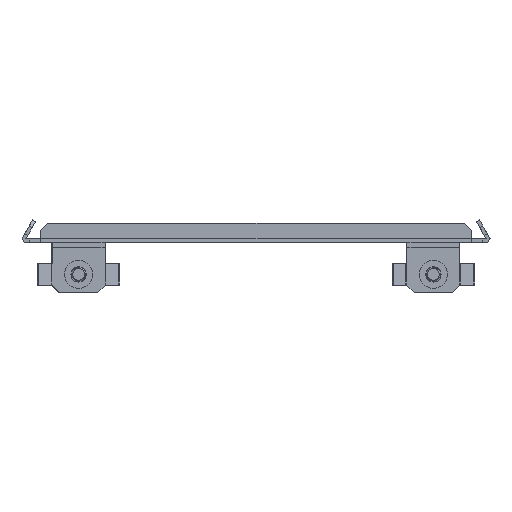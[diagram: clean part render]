
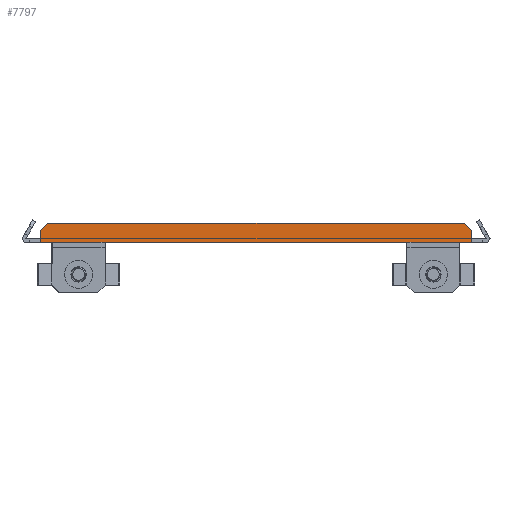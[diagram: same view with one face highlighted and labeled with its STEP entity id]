
A CAD part, left-side view. The second image highlights one B-rep face of the part: STEP entity #7797.
In plain terms, the highlighted planar face has unit normal (-1, 0, 0).
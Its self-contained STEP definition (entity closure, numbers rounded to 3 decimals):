
#120 = VECTOR ( 'NONE', #15654, 1000. ) ;
#135 = EDGE_CURVE ( 'NONE', #930, #25573, #15724, .T. ) ;
#256 = DIRECTION ( 'NONE',  ( 0., 0.707, -0.707 ) ) ;
#492 = VERTEX_POINT ( 'NONE', #22426 ) ;
#525 = EDGE_CURVE ( 'NONE', #9759, #16012, #24811, .T. ) ;
#722 = ORIENTED_EDGE ( 'NONE', *, *, #21935, .T. ) ;
#930 = VERTEX_POINT ( 'NONE', #19856 ) ;
#1166 = ORIENTED_EDGE ( 'NONE', *, *, #135, .T. ) ;
#1282 = VECTOR ( 'NONE', #6201, 1000. ) ;
#1553 = VECTOR ( 'NONE', #8497, 1000. ) ;
#1816 = DIRECTION ( 'NONE',  ( 0., -1., 0. ) ) ;
#2140 = VECTOR ( 'NONE', #4160, 1000. ) ;
#2963 = EDGE_CURVE ( 'NONE', #25606, #4572, #7798, .T. ) ;
#4160 = DIRECTION ( 'NONE',  ( 0., -1., 0. ) ) ;
#4572 = VERTEX_POINT ( 'NONE', #9456 ) ;
#5008 = DIRECTION ( 'NONE',  ( 0., 0., -1. ) ) ;
#5271 = VECTOR ( 'NONE', #5008, 1000. ) ;
#5522 = ORIENTED_EDGE ( 'NONE', *, *, #16029, .T. ) ;
#5578 = CARTESIAN_POINT ( 'NONE',  ( 1., -86.25, -1.5 ) ) ;
#5641 = LINE ( 'NONE', #10312, #1282 ) ;
#6201 = DIRECTION ( 'NONE',  ( 0., 0.707, 0.707 ) ) ;
#6380 = VECTOR ( 'NONE', #24453, 1000. ) ;
#7068 = CARTESIAN_POINT ( 'NONE',  ( 1., -22.5, -1.5 ) ) ;
#7151 = CARTESIAN_POINT ( 'NONE',  ( 1., -177.147, 3.5 ) ) ;
#7276 = DIRECTION ( 'NONE',  ( 0., -1., 0. ) ) ;
#7705 = CARTESIAN_POINT ( 'NONE',  ( 1., -172.345, -1.5 ) ) ;
#7797 = ADVANCED_FACE ( 'NONE', ( #18996 ), #16738, .F. ) ;
#7798 = LINE ( 'NONE', #10618, #1553 ) ;
#7950 = EDGE_CURVE ( 'NONE', #25573, #9700, #10960, .T. ) ;
#8143 = CARTESIAN_POINT ( 'NONE',  ( 1., -86.25, -1.5 ) ) ;
#8497 = DIRECTION ( 'NONE',  ( 0., 0., -1. ) ) ;
#8896 = ORIENTED_EDGE ( 'NONE', *, *, #23243, .T. ) ;
#9456 = CARTESIAN_POINT ( 'NONE',  ( 1., -177.147, -1.5 ) ) ;
#9700 = VERTEX_POINT ( 'NONE', #10513 ) ;
#9759 = VERTEX_POINT ( 'NONE', #23740 ) ;
#10312 = CARTESIAN_POINT ( 'NONE',  ( 1., -134.199, 46.449 ) ) ;
#10513 = CARTESIAN_POINT ( 'NONE',  ( 1., 4.647, 3.5 ) ) ;
#10618 = CARTESIAN_POINT ( 'NONE',  ( 1., -177.147, -1.5 ) ) ;
#10682 = CARTESIAN_POINT ( 'NONE',  ( 1., -38.302, 46.449 ) ) ;
#10960 = LINE ( 'NONE', #10682, #11711 ) ;
#11467 = ORIENTED_EDGE ( 'NONE', *, *, #23687, .T. ) ;
#11711 = VECTOR ( 'NONE', #256, 1000. ) ;
#12052 = VECTOR ( 'NONE', #20503, 1000. ) ;
#12563 = ORIENTED_EDGE ( 'NONE', *, *, #2963, .F. ) ;
#12628 = LINE ( 'NONE', #23336, #2140 ) ;
#13955 = CARTESIAN_POINT ( 'NONE',  ( 1., -86.25, -1.5 ) ) ;
#14122 = EDGE_CURVE ( 'NONE', #26825, #4572, #12628, .T. ) ;
#14445 = LINE ( 'NONE', #14994, #25077 ) ;
#14559 = ORIENTED_EDGE ( 'NONE', *, *, #525, .T. ) ;
#14611 = DIRECTION ( 'NONE',  ( 1., 0., 0. ) ) ;
#14834 = VECTOR ( 'NONE', #7276, 1000. ) ;
#14994 = CARTESIAN_POINT ( 'NONE',  ( 1., -86.25, -1.5 ) ) ;
#15654 = DIRECTION ( 'NONE',  ( 0., -1., 0. ) ) ;
#15724 = LINE ( 'NONE', #18126, #6380 ) ;
#15990 = ORIENTED_EDGE ( 'NONE', *, *, #23033, .T. ) ;
#16012 = VERTEX_POINT ( 'NONE', #20515 ) ;
#16029 = EDGE_CURVE ( 'NONE', #27337, #492, #20376, .T. ) ;
#16135 = LINE ( 'NONE', #24873, #12052 ) ;
#16693 = ORIENTED_EDGE ( 'NONE', *, *, #14122, .T. ) ;
#16738 = PLANE ( 'NONE',  #26546 ) ;
#17338 = EDGE_LOOP ( 'NONE', ( #15990, #14559, #8896, #5522, #722, #16693, #12563, #11467, #1166, #19316 ) ) ;
#18126 = CARTESIAN_POINT ( 'NONE',  ( 1., -86.25, 6.5 ) ) ;
#18996 = FACE_OUTER_BOUND ( 'NONE', #17338, .T. ) ;
#19316 = ORIENTED_EDGE ( 'NONE', *, *, #7950, .T. ) ;
#19856 = CARTESIAN_POINT ( 'NONE',  ( 1., -174.147, 6.5 ) ) ;
#20376 = LINE ( 'NONE', #5578, #14834 ) ;
#20503 = DIRECTION ( 'NONE',  ( 0., -1., 0. ) ) ;
#20515 = CARTESIAN_POINT ( 'NONE',  ( 1., -0.155, -1.5 ) ) ;
#21935 = EDGE_CURVE ( 'NONE', #492, #26825, #16135, .T. ) ;
#22426 = CARTESIAN_POINT ( 'NONE',  ( 1., -150., -1.5 ) ) ;
#22505 = CARTESIAN_POINT ( 'NONE',  ( 1., 1.647, 6.5 ) ) ;
#23033 = EDGE_CURVE ( 'NONE', #9700, #9759, #26437, .T. ) ;
#23041 = DIRECTION ( 'NONE',  ( 0., -1., 0. ) ) ;
#23243 = EDGE_CURVE ( 'NONE', #16012, #27337, #14445, .T. ) ;
#23336 = CARTESIAN_POINT ( 'NONE',  ( 1., -86.25, -1.5 ) ) ;
#23687 = EDGE_CURVE ( 'NONE', #25606, #930, #5641, .T. ) ;
#23740 = CARTESIAN_POINT ( 'NONE',  ( 1., 4.647, -1.5 ) ) ;
#24453 = DIRECTION ( 'NONE',  ( 0., 1., 0. ) ) ;
#24811 = LINE ( 'NONE', #13955, #120 ) ;
#24873 = CARTESIAN_POINT ( 'NONE',  ( 1., -86.25, -1.5 ) ) ;
#25077 = VECTOR ( 'NONE', #23041, 1000. ) ;
#25573 = VERTEX_POINT ( 'NONE', #22505 ) ;
#25606 = VERTEX_POINT ( 'NONE', #7151 ) ;
#26162 = CARTESIAN_POINT ( 'NONE',  ( 1., 4.647, -1.5 ) ) ;
#26437 = LINE ( 'NONE', #26162, #5271 ) ;
#26546 = AXIS2_PLACEMENT_3D ( 'NONE', #8143, #14611, #1816 ) ;
#26825 = VERTEX_POINT ( 'NONE', #7705 ) ;
#27337 = VERTEX_POINT ( 'NONE', #7068 ) ;
